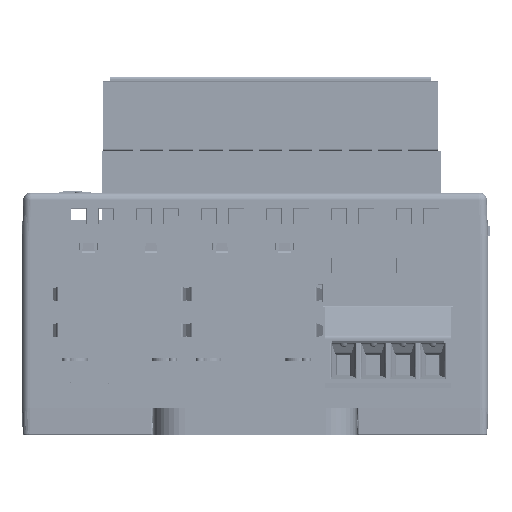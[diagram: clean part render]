
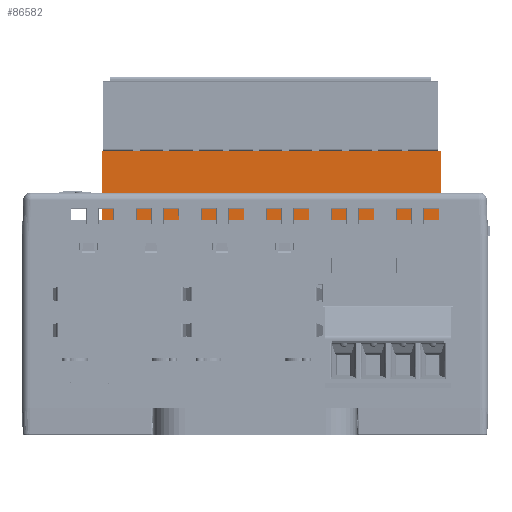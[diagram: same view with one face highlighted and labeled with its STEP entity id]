
A CAD part, front view. The second image highlights one B-rep face of the part: STEP entity #86582.
In plain terms, the highlighted planar face has unit normal (0, -1, 0).
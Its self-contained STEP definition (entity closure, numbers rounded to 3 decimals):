
#2374=DIRECTION('',(1.,0.,0.));
#2375=VECTOR('',#2374,43.3);
#2376=CARTESIAN_POINT('',(-19.55,-19.15,27.5));
#2377=LINE('',#2376,#2375);
#2802=DIRECTION('',(0.,0.,-1.));
#2803=VECTOR('',#2802,8.8);
#2804=CARTESIAN_POINT('',(23.75,-19.15,36.3));
#2805=LINE('',#2804,#2803);
#2810=DIRECTION('',(0.,0.,-1.));
#2811=VECTOR('',#2810,8.8);
#2812=CARTESIAN_POINT('',(-19.55,-19.15,36.3));
#2813=LINE('',#2812,#2811);
#2814=DIRECTION('',(-1.,0.,0.));
#2815=VECTOR('',#2814,0.2);
#2816=CARTESIAN_POINT('',(-19.35,-19.15,36.3));
#2817=LINE('',#2816,#2815);
#2818=DIRECTION('',(-1.,0.,0.));
#2819=VECTOR('',#2818,0.834);
#2820=CARTESIAN_POINT('',(-14.728,-19.15,36.3));
#2821=LINE('',#2820,#2819);
#2822=DIRECTION('',(-1.,0.,0.));
#2823=VECTOR('',#2822,0.834);
#2824=CARTESIAN_POINT('',(-10.918,-19.15,36.3));
#2825=LINE('',#2824,#2823);
#2826=DIRECTION('',(-1.,0.,0.));
#2827=VECTOR('',#2826,0.834);
#2828=CARTESIAN_POINT('',(-7.108,-19.15,36.3));
#2829=LINE('',#2828,#2827);
#2830=DIRECTION('',(-1.,0.,0.));
#2831=VECTOR('',#2830,0.834);
#2832=CARTESIAN_POINT('',(-3.298,-19.15,36.3));
#2833=LINE('',#2832,#2831);
#2834=DIRECTION('',(-1.,0.,0.));
#2835=VECTOR('',#2834,0.834);
#2836=CARTESIAN_POINT('',(0.512,-19.15,36.3));
#2837=LINE('',#2836,#2835);
#2838=DIRECTION('',(-1.,0.,0.));
#2839=VECTOR('',#2838,0.834);
#2840=CARTESIAN_POINT('',(4.322,-19.15,36.3));
#2841=LINE('',#2840,#2839);
#2842=DIRECTION('',(-1.,0.,0.));
#2843=VECTOR('',#2842,0.834);
#2844=CARTESIAN_POINT('',(8.132,-19.15,36.3));
#2845=LINE('',#2844,#2843);
#2846=DIRECTION('',(-1.,0.,0.));
#2847=VECTOR('',#2846,0.834);
#2848=CARTESIAN_POINT('',(11.942,-19.15,36.3));
#2849=LINE('',#2848,#2847);
#2850=DIRECTION('',(-1.,0.,0.));
#2851=VECTOR('',#2850,0.834);
#2852=CARTESIAN_POINT('',(15.752,-19.15,36.3));
#2853=LINE('',#2852,#2851);
#2854=DIRECTION('',(-1.,0.,0.));
#2855=VECTOR('',#2854,0.834);
#2856=CARTESIAN_POINT('',(19.562,-19.15,36.3));
#2857=LINE('',#2856,#2855);
#2858=DIRECTION('',(-1.,0.,0.));
#2859=VECTOR('',#2858,0.4);
#2860=CARTESIAN_POINT('',(23.75,-19.15,36.3));
#2861=LINE('',#2860,#2859);
#3002=DIRECTION('',(-1.,0.,0.));
#3003=VECTOR('',#3002,3.788);
#3004=CARTESIAN_POINT('',(23.35,-19.15,36.3));
#3005=LINE('',#3004,#3003);
#3010=DIRECTION('',(-1.,0.,0.));
#3011=VECTOR('',#3010,3.788);
#3012=CARTESIAN_POINT('',(-15.562,-19.15,36.3));
#3013=LINE('',#3012,#3011);
#3738=DIRECTION('',(-1.,0.,0.));
#3739=VECTOR('',#3738,2.976);
#3740=CARTESIAN_POINT('',(18.728,-19.15,36.3));
#3741=LINE('',#3740,#3739);
#4191=DIRECTION('',(-1.,0.,0.));
#4192=VECTOR('',#4191,2.976);
#4193=CARTESIAN_POINT('',(14.918,-19.15,36.3));
#4194=LINE('',#4193,#4192);
#4644=DIRECTION('',(-1.,0.,0.));
#4645=VECTOR('',#4644,2.976);
#4646=CARTESIAN_POINT('',(11.108,-19.15,36.3));
#4647=LINE('',#4646,#4645);
#5097=DIRECTION('',(-1.,0.,0.));
#5098=VECTOR('',#5097,2.976);
#5099=CARTESIAN_POINT('',(7.298,-19.15,36.3));
#5100=LINE('',#5099,#5098);
#5550=DIRECTION('',(-1.,0.,0.));
#5551=VECTOR('',#5550,2.976);
#5552=CARTESIAN_POINT('',(3.488,-19.15,36.3));
#5553=LINE('',#5552,#5551);
#6003=DIRECTION('',(-1.,0.,0.));
#6004=VECTOR('',#6003,2.976);
#6005=CARTESIAN_POINT('',(-0.322,-19.15,36.3));
#6006=LINE('',#6005,#6004);
#6456=DIRECTION('',(-1.,0.,0.));
#6457=VECTOR('',#6456,2.976);
#6458=CARTESIAN_POINT('',(-4.132,-19.15,36.3));
#6459=LINE('',#6458,#6457);
#6909=DIRECTION('',(-1.,0.,0.));
#6910=VECTOR('',#6909,2.976);
#6911=CARTESIAN_POINT('',(-7.942,-19.15,36.3));
#6912=LINE('',#6911,#6910);
#7362=DIRECTION('',(-1.,0.,0.));
#7363=VECTOR('',#7362,2.976);
#7364=CARTESIAN_POINT('',(-11.752,-19.15,36.3));
#7365=LINE('',#7364,#7363);
#66807=CARTESIAN_POINT('',(-19.55,-19.15,36.3));
#66809=VERTEX_POINT('',#66807);
#66813=CARTESIAN_POINT('',(23.75,-19.15,36.3));
#66814=VERTEX_POINT('',#66813);
#82874=CARTESIAN_POINT('',(-19.55,-19.15,27.5));
#82876=VERTEX_POINT('',#82874);
#82877=CARTESIAN_POINT('',(23.75,-19.15,27.5));
#82878=VERTEX_POINT('',#82877);
#82881=CARTESIAN_POINT('',(-19.35,-19.15,36.3));
#82883=VERTEX_POINT('',#82881);
#82885=CARTESIAN_POINT('',(23.35,-19.15,36.3));
#82887=VERTEX_POINT('',#82885);
#82933=CARTESIAN_POINT('',(19.562,-19.15,36.3));
#82934=VERTEX_POINT('',#82933);
#82935=CARTESIAN_POINT('',(-15.562,-19.15,36.3));
#82936=VERTEX_POINT('',#82935);
#83074=CARTESIAN_POINT('',(18.728,-19.15,36.3));
#83076=VERTEX_POINT('',#83074);
#83078=CARTESIAN_POINT('',(15.752,-19.15,36.3));
#83080=VERTEX_POINT('',#83078);
#83082=CARTESIAN_POINT('',(14.918,-19.15,36.3));
#83084=VERTEX_POINT('',#83082);
#83086=CARTESIAN_POINT('',(11.942,-19.15,36.3));
#83088=VERTEX_POINT('',#83086);
#83090=CARTESIAN_POINT('',(11.108,-19.15,36.3));
#83092=VERTEX_POINT('',#83090);
#83094=CARTESIAN_POINT('',(8.132,-19.15,36.3));
#83096=VERTEX_POINT('',#83094);
#83098=CARTESIAN_POINT('',(7.298,-19.15,36.3));
#83100=VERTEX_POINT('',#83098);
#83102=CARTESIAN_POINT('',(4.322,-19.15,36.3));
#83104=VERTEX_POINT('',#83102);
#83106=CARTESIAN_POINT('',(3.488,-19.15,36.3));
#83108=VERTEX_POINT('',#83106);
#83110=CARTESIAN_POINT('',(0.512,-19.15,36.3));
#83112=VERTEX_POINT('',#83110);
#83114=CARTESIAN_POINT('',(-0.322,-19.15,36.3));
#83116=VERTEX_POINT('',#83114);
#83118=CARTESIAN_POINT('',(-3.298,-19.15,36.3));
#83120=VERTEX_POINT('',#83118);
#83122=CARTESIAN_POINT('',(-4.132,-19.15,36.3));
#83124=VERTEX_POINT('',#83122);
#83126=CARTESIAN_POINT('',(-7.108,-19.15,36.3));
#83128=VERTEX_POINT('',#83126);
#83130=CARTESIAN_POINT('',(-7.942,-19.15,36.3));
#83132=VERTEX_POINT('',#83130);
#83134=CARTESIAN_POINT('',(-10.918,-19.15,36.3));
#83136=VERTEX_POINT('',#83134);
#83138=CARTESIAN_POINT('',(-11.752,-19.15,36.3));
#83140=VERTEX_POINT('',#83138);
#83142=CARTESIAN_POINT('',(-14.728,-19.15,36.3));
#83144=VERTEX_POINT('',#83142);
#86526=CARTESIAN_POINT('',(2.1,-19.15,31.7));
#86527=DIRECTION('',(0.,1.,0.));
#86528=DIRECTION('',(1.,0.,0.));
#86529=AXIS2_PLACEMENT_3D('',#86526,#86527,#86528);
#86530=PLANE('',#86529);
#86531=ORIENTED_EDGE('',*,*,#86446,.F.);
#86532=ORIENTED_EDGE('',*,*,#86472,.F.);
#86534=ORIENTED_EDGE('',*,*,#86533,.F.);
#86536=ORIENTED_EDGE('',*,*,#86535,.F.);
#86538=ORIENTED_EDGE('',*,*,#86537,.F.);
#86540=ORIENTED_EDGE('',*,*,#86539,.F.);
#86542=ORIENTED_EDGE('',*,*,#86541,.F.);
#86544=ORIENTED_EDGE('',*,*,#86543,.F.);
#86546=ORIENTED_EDGE('',*,*,#86545,.F.);
#86548=ORIENTED_EDGE('',*,*,#86547,.F.);
#86550=ORIENTED_EDGE('',*,*,#86549,.F.);
#86552=ORIENTED_EDGE('',*,*,#86551,.F.);
#86554=ORIENTED_EDGE('',*,*,#86553,.F.);
#86556=ORIENTED_EDGE('',*,*,#86555,.F.);
#86558=ORIENTED_EDGE('',*,*,#86557,.F.);
#86560=ORIENTED_EDGE('',*,*,#86559,.F.);
#86562=ORIENTED_EDGE('',*,*,#86561,.F.);
#86564=ORIENTED_EDGE('',*,*,#86563,.F.);
#86566=ORIENTED_EDGE('',*,*,#86565,.F.);
#86568=ORIENTED_EDGE('',*,*,#86567,.F.);
#86570=ORIENTED_EDGE('',*,*,#86569,.F.);
#86572=ORIENTED_EDGE('',*,*,#86571,.F.);
#86574=ORIENTED_EDGE('',*,*,#86573,.F.);
#86576=ORIENTED_EDGE('',*,*,#86575,.F.);
#86578=ORIENTED_EDGE('',*,*,#86577,.F.);
#86579=ORIENTED_EDGE('',*,*,#86511,.T.);
#86580=EDGE_LOOP('',(#86531,#86532,#86534,#86536,#86538,#86540,#86542,#86544,
#86546,#86548,#86550,#86552,#86554,#86556,#86558,#86560,#86562,#86564,#86566,
#86568,#86570,#86572,#86574,#86576,#86578,#86579));
#86581=FACE_OUTER_BOUND('',#86580,.F.);
#86582=ADVANCED_FACE('',(#86581),#86530,.F.);
#86446=EDGE_CURVE('',#82876,#82878,#2377,.T.);
#86472=EDGE_CURVE('',#66809,#82876,#2813,.T.);
#86511=EDGE_CURVE('',#66814,#82878,#2805,.T.);
#86533=EDGE_CURVE('',#82883,#66809,#2817,.T.);
#86535=EDGE_CURVE('',#82936,#82883,#3013,.T.);
#86537=EDGE_CURVE('',#83144,#82936,#2821,.T.);
#86539=EDGE_CURVE('',#83140,#83144,#7365,.T.);
#86541=EDGE_CURVE('',#83136,#83140,#2825,.T.);
#86543=EDGE_CURVE('',#83132,#83136,#6912,.T.);
#86545=EDGE_CURVE('',#83128,#83132,#2829,.T.);
#86547=EDGE_CURVE('',#83124,#83128,#6459,.T.);
#86549=EDGE_CURVE('',#83120,#83124,#2833,.T.);
#86551=EDGE_CURVE('',#83116,#83120,#6006,.T.);
#86553=EDGE_CURVE('',#83112,#83116,#2837,.T.);
#86555=EDGE_CURVE('',#83108,#83112,#5553,.T.);
#86557=EDGE_CURVE('',#83104,#83108,#2841,.T.);
#86559=EDGE_CURVE('',#83100,#83104,#5100,.T.);
#86561=EDGE_CURVE('',#83096,#83100,#2845,.T.);
#86563=EDGE_CURVE('',#83092,#83096,#4647,.T.);
#86565=EDGE_CURVE('',#83088,#83092,#2849,.T.);
#86567=EDGE_CURVE('',#83084,#83088,#4194,.T.);
#86569=EDGE_CURVE('',#83080,#83084,#2853,.T.);
#86571=EDGE_CURVE('',#83076,#83080,#3741,.T.);
#86573=EDGE_CURVE('',#82934,#83076,#2857,.T.);
#86575=EDGE_CURVE('',#82887,#82934,#3005,.T.);
#86577=EDGE_CURVE('',#66814,#82887,#2861,.T.);
